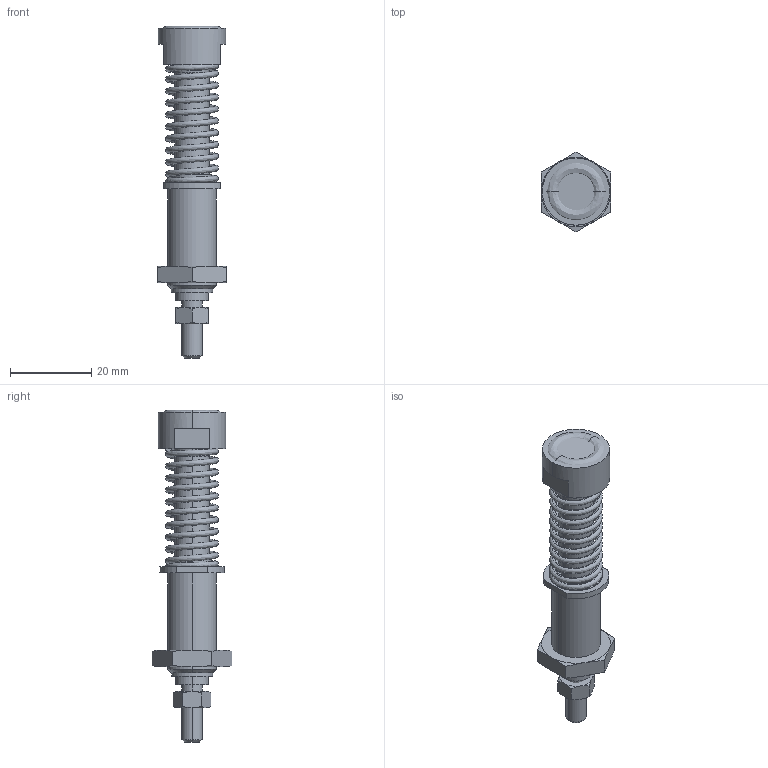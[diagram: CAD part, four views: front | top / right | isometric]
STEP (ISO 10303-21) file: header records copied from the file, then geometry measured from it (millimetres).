
FILE_DESCRIPTION (( 'STEP AP203' ), '1' );
FILE_NAME ('BC140-17_STEP-AP203.STEP', '2022-03-22T07:22:10', ( '' ), ( '' ), 'SwSTEP 2.0', 'SolidWorks 2017', '' );
FILE_SCHEMA (( 'CONFIG_CONTROL_DESIGN' ));
Length unit declared in the file: millimetre
Products named in the file (1): BC140-17_STEP-AP203
Bounding box: 17 x 19.63 x 81.5 mm (x, y, z)
Volume: 8623.6 mm3; surface area: 8012 mm2
Topology: 8 solids, 8 shells, 129 faces, 276 edges, 166 vertices
Faces by surface type: plane 43, cylinder 36, cone 30, bspline 10, torus 8, sphere 2
Entity records: 6149 total; most frequent: CARTESIAN_POINT 3352, DIRECTION 584, ORIENTED_EDGE 548, EDGE_CURVE 274, AXIS2_PLACEMENT_3D 254, VERTEX_POINT 166, EDGE_LOOP 144, CIRCLE 134
